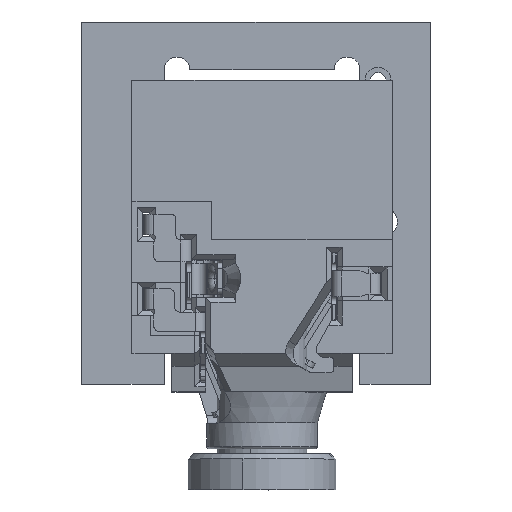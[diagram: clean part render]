
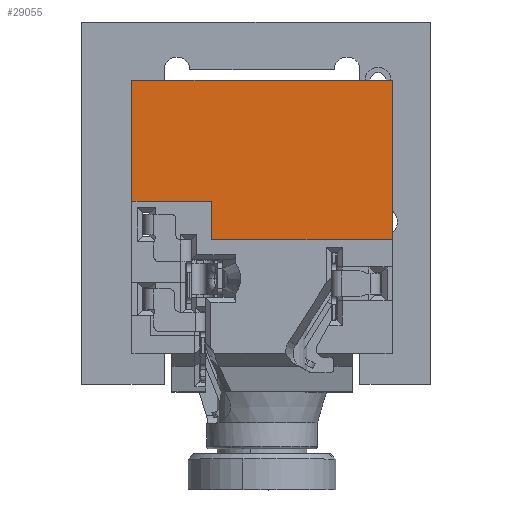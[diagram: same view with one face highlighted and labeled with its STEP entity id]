
A CAD part, top view. The second image highlights one B-rep face of the part: STEP entity #29055.
In plain terms, the highlighted planar face has unit normal (0, 0, 1).
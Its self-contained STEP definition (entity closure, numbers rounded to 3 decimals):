
#1288 = EDGE_CURVE ( 'NONE', #4083, #1986, #2604, .T. ) ;
#1986 = VERTEX_POINT ( 'NONE', #5443 ) ;
#2055 = ORIENTED_EDGE ( 'NONE', *, *, #2318, .T. ) ;
#2092 = VECTOR ( 'NONE', #3481, 1000. ) ;
#2184 = VECTOR ( 'NONE', #4115, 1000. ) ;
#2318 = EDGE_CURVE ( 'NONE', #12043, #8658, #14965, .T. ) ;
#2604 = LINE ( 'NONE', #15948, #15019 ) ;
#3260 = CARTESIAN_POINT ( 'NONE',  ( -5.05, -4.7, 0. ) ) ;
#3318 = LINE ( 'NONE', #3260, #16097 ) ;
#3481 = DIRECTION ( 'NONE',  ( -1., 0., 0. ) ) ;
#3737 = VERTEX_POINT ( 'NONE', #4702 ) ;
#3778 = ORIENTED_EDGE ( 'NONE', *, *, #5087, .F. ) ;
#4083 = VERTEX_POINT ( 'NONE', #15016 ) ;
#4115 = DIRECTION ( 'NONE',  ( 0., 1., 0. ) ) ;
#4702 = CARTESIAN_POINT ( 'NONE',  ( -5.05, -4.7, 0. ) ) ;
#5087 = EDGE_CURVE ( 'NONE', #12043, #4083, #9904, .T. ) ;
#5443 = CARTESIAN_POINT ( 'NONE',  ( -1.95, -4.7, 0. ) ) ;
#5588 = CARTESIAN_POINT ( 'NONE',  ( -5.05, -11.8, 0. ) ) ;
#6875 = DIRECTION ( 'NONE',  ( 0., 1., 0. ) ) ;
#8658 = VERTEX_POINT ( 'NONE', #26061 ) ;
#9145 = ORIENTED_EDGE ( 'NONE', *, *, #16870, .F. ) ;
#9904 = LINE ( 'NONE', #17258, #2092 ) ;
#10154 = LINE ( 'NONE', #5588, #24091 ) ;
#10298 = CARTESIAN_POINT ( 'NONE',  ( -5.05, 0., 0. ) ) ;
#10873 = ORIENTED_EDGE ( 'NONE', *, *, #1288, .F. ) ;
#10929 = EDGE_CURVE ( 'NONE', #3737, #13037, #10154, .T. ) ;
#11071 = EDGE_LOOP ( 'NONE', ( #14930, #9145, #10873, #3778, #2055, #12847 ) ) ;
#12043 = VERTEX_POINT ( 'NONE', #19477 ) ;
#12557 = DIRECTION ( 'NONE',  ( 0., 1., 0. ) ) ;
#12685 = DIRECTION ( 'NONE',  ( 1., 0., 0. ) ) ;
#12847 = ORIENTED_EDGE ( 'NONE', *, *, #29008, .T. ) ;
#13037 = VERTEX_POINT ( 'NONE', #10298 ) ;
#14573 = DIRECTION ( 'NONE',  ( -1., 0., 0. ) ) ;
#14930 = ORIENTED_EDGE ( 'NONE', *, *, #10929, .F. ) ;
#14965 = LINE ( 'NONE', #17919, #2184 ) ;
#15016 = CARTESIAN_POINT ( 'NONE',  ( -1.95, -6.2, 0. ) ) ;
#15019 = VECTOR ( 'NONE', #6875, 1000. ) ;
#15352 = PLANE ( 'NONE',  #26545 ) ;
#15948 = CARTESIAN_POINT ( 'NONE',  ( -1.95, -4.7, 0. ) ) ;
#16097 = VECTOR ( 'NONE', #23770, 1000. ) ;
#16559 = LINE ( 'NONE', #16765, #24092 ) ;
#16765 = CARTESIAN_POINT ( 'NONE',  ( -5.05, 0., 0. ) ) ;
#16870 = EDGE_CURVE ( 'NONE', #1986, #3737, #3318, .T. ) ;
#17258 = CARTESIAN_POINT ( 'NONE',  ( -1.95, -6.2, 0. ) ) ;
#17919 = CARTESIAN_POINT ( 'NONE',  ( 5.05, -11.8, 0. ) ) ;
#17952 = FACE_OUTER_BOUND ( 'NONE', #11071, .T. ) ;
#19477 = CARTESIAN_POINT ( 'NONE',  ( 5.05, -6.2, 0. ) ) ;
#23770 = DIRECTION ( 'NONE',  ( -1., 0., 0. ) ) ;
#24091 = VECTOR ( 'NONE', #12557, 1000. ) ;
#24092 = VECTOR ( 'NONE', #14573, 1000. ) ;
#26061 = CARTESIAN_POINT ( 'NONE',  ( 5.05, 0., 0. ) ) ;
#26413 = CARTESIAN_POINT ( 'NONE',  ( -5.05, -11.8, 0. ) ) ;
#26545 = AXIS2_PLACEMENT_3D ( 'NONE', #26413, #26592, #12685 ) ;
#26592 = DIRECTION ( 'NONE',  ( 0., 0., -1. ) ) ;
#29008 = EDGE_CURVE ( 'NONE', #8658, #13037, #16559, .T. ) ;
#29055 = ADVANCED_FACE ( 'NONE', ( #17952 ), #15352, .F. ) ;
